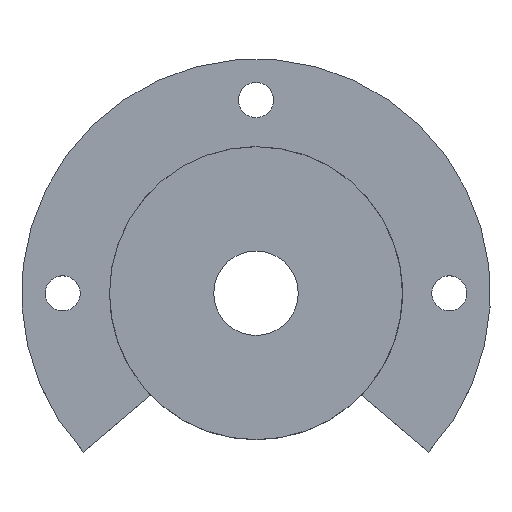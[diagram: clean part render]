
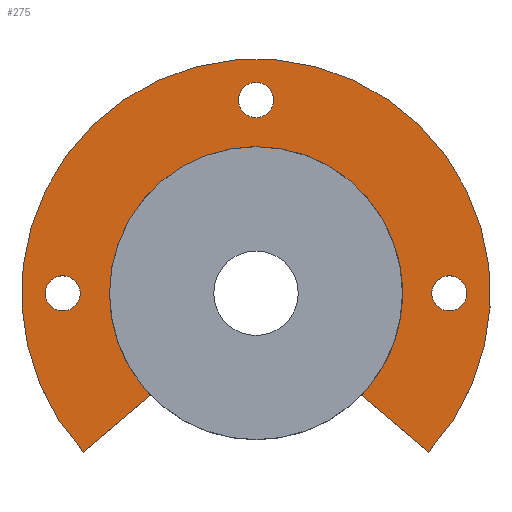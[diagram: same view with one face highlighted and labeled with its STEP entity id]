
A CAD part, top view. The second image highlights one B-rep face of the part: STEP entity #275.
In plain terms, the highlighted planar face has unit normal (0, 0, 1).
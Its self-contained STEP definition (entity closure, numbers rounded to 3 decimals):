
#25=FACE_BOUND('',#55,.T.);
#26=FACE_BOUND('',#56,.T.);
#27=FACE_BOUND('',#57,.T.);
#36=FACE_OUTER_BOUND('',#54,.T.);
#54=EDGE_LOOP('',(#217,#218,#219,#220,#221));
#55=EDGE_LOOP('',(#222));
#56=EDGE_LOOP('',(#223));
#57=EDGE_LOOP('',(#224));
#73=CIRCLE('',#305,1.5);
#75=CIRCLE('',#312,12.5);
#76=CIRCLE('',#313,12.5);
#77=CIRCLE('',#314,20.);
#78=CIRCLE('',#315,1.5);
#79=CIRCLE('',#316,1.5);
#95=LINE('',#453,#116);
#97=LINE('',#458,#118);
#116=VECTOR('',#366,10.);
#118=VECTOR('',#370,10.);
#135=VERTEX_POINT('',#435);
#138=VERTEX_POINT('',#445);
#140=VERTEX_POINT('',#451);
#141=VERTEX_POINT('',#455);
#142=VERTEX_POINT('',#457);
#143=VERTEX_POINT('',#461);
#144=VERTEX_POINT('',#465);
#145=VERTEX_POINT('',#467);
#159=EDGE_CURVE('',#135,#135,#73,.T.);
#168=EDGE_CURVE('',#138,#140,#95,.T.);
#170=EDGE_CURVE('',#142,#141,#97,.T.);
#172=EDGE_CURVE('',#143,#141,#75,.T.);
#173=EDGE_CURVE('',#138,#143,#76,.T.);
#174=EDGE_CURVE('',#142,#140,#77,.T.);
#175=EDGE_CURVE('',#144,#144,#78,.T.);
#176=EDGE_CURVE('',#145,#145,#79,.T.);
#217=ORIENTED_EDGE('',*,*,#170,.T.);
#218=ORIENTED_EDGE('',*,*,#172,.F.);
#219=ORIENTED_EDGE('',*,*,#173,.F.);
#220=ORIENTED_EDGE('',*,*,#168,.T.);
#221=ORIENTED_EDGE('',*,*,#174,.F.);
#222=ORIENTED_EDGE('',*,*,#175,.T.);
#223=ORIENTED_EDGE('',*,*,#176,.T.);
#224=ORIENTED_EDGE('',*,*,#159,.T.);
#265=PLANE('',#311);
#275=ADVANCED_FACE('',(#36,#25,#26,#27),#265,.T.);
#305=AXIS2_PLACEMENT_3D('',#436,#349,#350);
#311=AXIS2_PLACEMENT_3D('',#460,#372,#373);
#312=AXIS2_PLACEMENT_3D('',#462,#374,#375);
#313=AXIS2_PLACEMENT_3D('',#463,#376,#377);
#314=AXIS2_PLACEMENT_3D('',#464,#378,#379);
#315=AXIS2_PLACEMENT_3D('',#466,#380,#381);
#316=AXIS2_PLACEMENT_3D('',#468,#382,#383);
#349=DIRECTION('center_axis',(0.,0.,-1.));
#350=DIRECTION('ref_axis',(-1.,0.,0.));
#366=DIRECTION('',(0.761,-0.648,0.));
#370=DIRECTION('',(0.761,0.648,0.));
#372=DIRECTION('center_axis',(0.,0.,1.));
#373=DIRECTION('ref_axis',(1.,0.,0.));
#374=DIRECTION('center_axis',(0.,0.,1.));
#375=DIRECTION('ref_axis',(1.,0.,0.));
#376=DIRECTION('center_axis',(0.,0.,1.));
#377=DIRECTION('ref_axis',(1.,0.,0.));
#378=DIRECTION('center_axis',(0.,0.,-1.));
#379=DIRECTION('ref_axis',(0.,1.,0.));
#380=DIRECTION('center_axis',(0.,0.,-1.));
#381=DIRECTION('ref_axis',(0.,1.,0.));
#382=DIRECTION('center_axis',(0.,0.,-1.));
#383=DIRECTION('ref_axis',(1.,0.,0.));
#435=CARTESIAN_POINT('',(-15.,0.,4.5));
#436=CARTESIAN_POINT('Origin',(-16.5,0.,4.5));
#445=CARTESIAN_POINT('',(9.,-8.675,4.5));
#451=CARTESIAN_POINT('',(14.718,-13.542,4.5));
#453=CARTESIAN_POINT('',(4.25,-4.631,4.5));
#455=CARTESIAN_POINT('',(-9.,-8.675,4.5));
#457=CARTESIAN_POINT('',(-14.718,-13.542,4.5));
#458=CARTESIAN_POINT('',(-7.109,-7.065,4.5));
#460=CARTESIAN_POINT('Origin',(0.,0.,4.5));
#461=CARTESIAN_POINT('',(-12.5,0.,4.5));
#462=CARTESIAN_POINT('Origin',(0.,0.,4.5));
#463=CARTESIAN_POINT('Origin',(0.,0.,4.5));
#464=CARTESIAN_POINT('Origin',(0.,0.,4.5));
#465=CARTESIAN_POINT('',(0.,15.,4.5));
#466=CARTESIAN_POINT('Origin',(0.,16.5,4.5));
#467=CARTESIAN_POINT('',(15.,0.,4.5));
#468=CARTESIAN_POINT('Origin',(16.5,0.,4.5));
